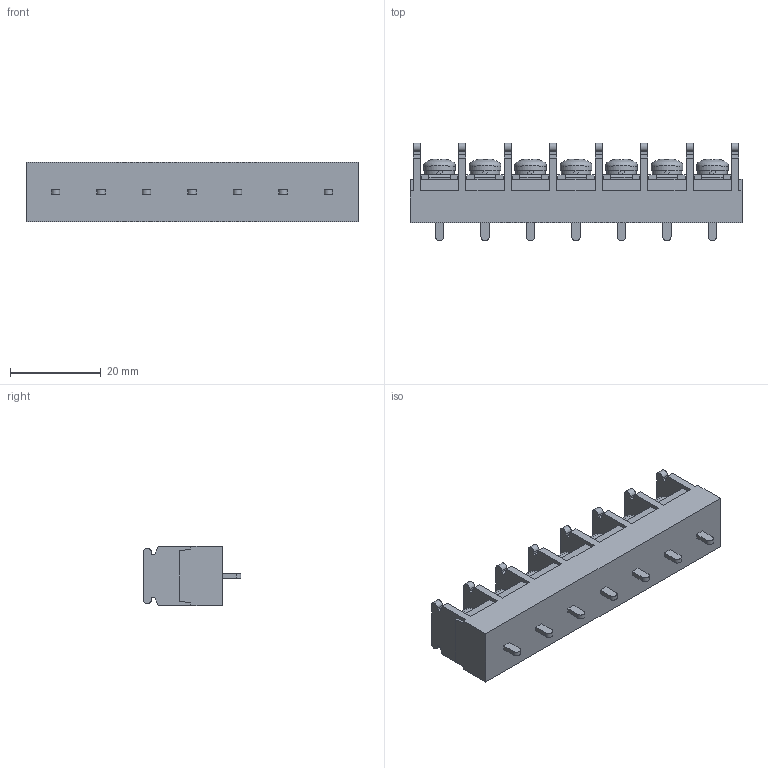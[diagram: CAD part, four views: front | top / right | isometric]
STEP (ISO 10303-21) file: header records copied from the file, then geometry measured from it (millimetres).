
FILE_DESCRIPTION(/* description */ ('Alibre Inc.'),/* implementation_level */ '2;1');
FILE_NAME(/* name */ 'export0',/* time_stamp */ '2015-10-17T18:07:37+09:00',/* author */ (''),/* organization */ (''),/* preprocessor_version */ 'ST-DEVELOPER v14',/* originating_system */ 'Alibre',/* authorisation */ '');
FILE_SCHEMA (('CONFIG_CONTROL_DESIGN'));
Length unit declared in the file: centimetre
Products named in the file (1): ID_1
Bounding box: 73 x 21.5 x 13 mm (x, y, z)
Volume: 11228.6 mm3; surface area: 6566 mm2
Topology: 1 solids, 17 shells, 845 faces, 2289 edges, 1519 vertices
Faces by surface type: plane 634, bspline 104, cylinder 58, cone 28, torus 14, sphere 7
Full cylindrical faces by diameter (mm): 4 x7, 6.5 x7, 7 x7
Entity records: 25725 total; most frequent: CARTESIAN_POINT 5744, ORIENTED_EDGE 4480, DIRECTION 3146, EDGE_CURVE 2240, VECTOR 1662, LINE 1662, VERTEX_POINT 1498, AXIS2_PLACEMENT_3D 1056
